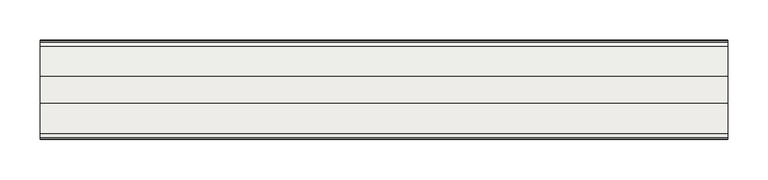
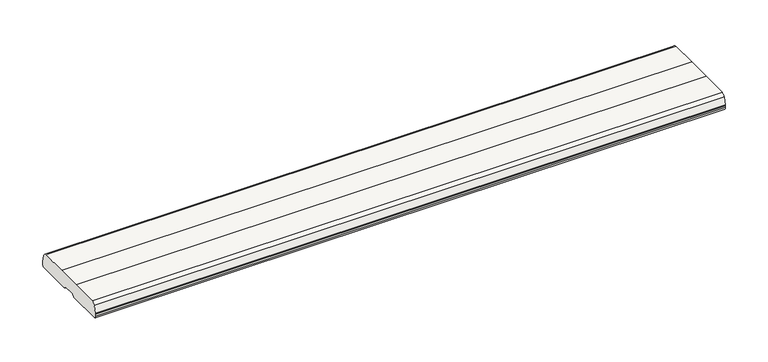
"""IFC4 building model written with IfcOpenShell, lengths in millimetres: slab geometry, ROSA GRES_121 CM : Pieza 121 CM_Tresor_Java_Anti-Slip."""

from ifc_helpers import new_model, si_unit, point, frame, frame_2d, origin, place, context, project, spatial, polyline, circle_curve, trimmed, segment, composite_curve, outline, extrude, source, transform, mapped, element, save


def slab_bb339371(model_context):
    return source(origin(), model_context, "Body", "SweptSolid", [
        extrude(outline(composite_curve([segment(polyline([(122.780004, -4.4288005), (125.2726851, -14.1746663)]), True, "CONTINUOUS"), segment(trimmed(circle_curve(frame_2d((120.5, -15.6651284)), 5.0), [point((125.2726851, -14.1746663))], [point((125.5, -15.6651284))], False, "CARTESIAN"), True, "CONTINUOUS"), segment(polyline([(125.5, -15.6651284), (125.5, -17.9933959)]), True, "CONTINUOUS"), segment(trimmed(circle_curve(frame_2d((120.4972512, -17.9933959)), 5.0027488), [point((125.5, -17.9933959))], [point((123.5971345, -21.92))], False, "CARTESIAN"), True, "CONTINUOUS"), segment(polyline([(123.5971345, -21.92), (76.1600446, -21.92)]), True, "CONTINUOUS"), segment(trimmed(circle_curve(frame_2d((76.1600446, -19.92)), 2.0), [point((76.1600446, -21.92))], [point((74.4339023, -20.9301647))], False, "CARTESIAN"), True, "CONTINUOUS"), segment(trimmed(circle_curve(frame_2d((70.1185466, -23.4555766)), 5.0), [point((74.4339023, -20.9301647))], [point((70.1185466, -18.4555766))], True, "CARTESIAN"), True, "CONTINUOUS"), segment(polyline([(70.1185466, -18.4555766), (57.8814534, -18.4555766)]), True, "CONTINUOUS"), segment(trimmed(circle_curve(frame_2d((57.8814534, -23.4555766)), 5.0), [point((57.8814534, -18.4555766))], [point((53.5660977, -20.9301647))], True, "CARTESIAN"), True, "CONTINUOUS"), segment(trimmed(circle_curve(frame_2d((51.8399554, -19.92)), 2.0), [point((53.5660977, -20.9301647))], [point((51.8399554, -21.92))], False, "CARTESIAN"), True, "CONTINUOUS"), segment(polyline([(51.8399554, -21.92), (4.4028655, -21.92)]), True, "CONTINUOUS"), segment(trimmed(circle_curve(frame_2d((7.5027488, -17.9933959)), 5.0027488), [point((4.4028655, -21.92))], [point((2.5, -17.9933959))], False, "CARTESIAN"), True, "CONTINUOUS"), segment(polyline([(2.5, -17.9933959), (2.5, -15.6651284)]), True, "CONTINUOUS"), segment(trimmed(circle_curve(frame_2d((7.5, -15.6651284)), 5.0), [point((2.5, -15.6651284))], [point((2.7273149, -14.1746663))], False, "CARTESIAN"), True, "CONTINUOUS"), segment(polyline([(2.7273149, -14.1746663), (5.219996, -4.4288005)]), True, "CONTINUOUS"), segment(trimmed(circle_curve(frame_2d((9.9926811, -5.9192626)), 5.0), [point((5.219996, -4.4288005))], [point((9.9075888, -0.9199867))], False, "CARTESIAN"), True, "CONTINUOUS"), segment(polyline([(9.9075888, -0.9199867), (46.9815344, -0.2889537)]), True, "CONTINUOUS"), segment(trimmed(circle_curve(frame_2d((64.0, -1000.1441291)), 1000.0), [point((46.9815344, -0.2889537))], [point((81.0184656, -0.2889537))], False, "CARTESIAN"), True, "CONTINUOUS"), segment(polyline([(81.0184656, -0.2889537), (118.0924112, -0.9199867)]), True, "CONTINUOUS"), segment(trimmed(circle_curve(frame_2d((118.0073189, -5.9192626)), 5.0), [point((118.0924112, -0.9199867))], [point((122.780004, -4.4288005))], False, "CARTESIAN"), True, "CONTINUOUS")], self_intersect=False)), frame((0.0, 0.0, 0.0), z_axis=(1.0, 0.0, 0.0), x_axis=(0.0, 1.0, 0.0)), (0.0, 0.0, 1.0), 850.0000035),
    ])


if __name__ == "__main__":
    model = new_model("IFC4")
    model_context = context("Model", 3, world=origin())
    ifc_project = project(units=[si_unit("LENGTHUNIT", "METRE", prefix="MILLI")], contexts=[model_context])
    site = spatial("IfcSite", under=ifc_project)
    building = spatial("IfcBuilding", under=site)
    placement = place(None, origin())
    slab_shape = slab_bb339371(model_context)
    element("IfcSlab", 1, ObjectType="ROSA GRES_121 CM : Pieza 121 CM_Tresor_Java_Anti-Slip", at=placement, inside=building, context=model_context, shape_type="MappedRepresentation", body=[
        mapped(slab_shape, transform((0.0, 0.0, 0.0), x_axis=(1.0, 0.0, 0.0), y_axis=(0.0, 1.0, 0.0), z_axis=(0.0, 0.0, 1.0))),
    ])
    save(model, "model.ifc")
